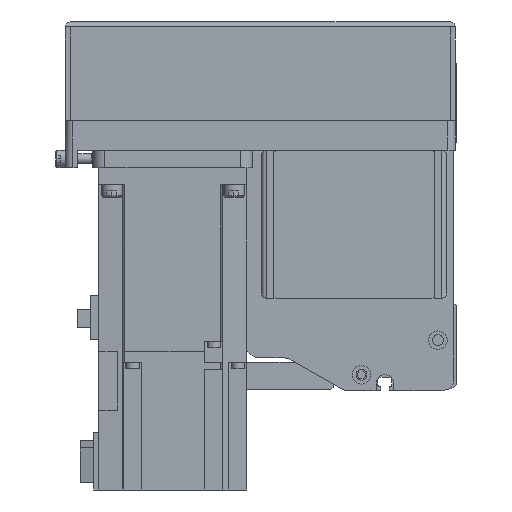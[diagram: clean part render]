
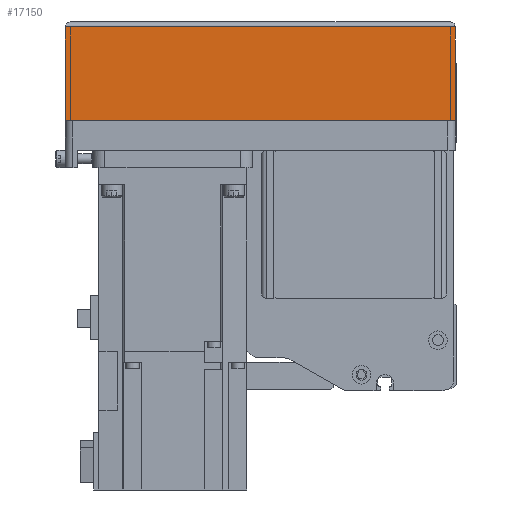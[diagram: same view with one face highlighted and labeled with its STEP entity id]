
A CAD part, left-side view. The second image highlights one B-rep face of the part: STEP entity #17150.
In plain terms, the highlighted planar face has unit normal (-1, 0, 0) as drawn and (0, 1, 0) by its records, which use the part's own axes.
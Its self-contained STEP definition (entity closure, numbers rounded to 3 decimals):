
#2682=ORIENTED_EDGE('',*,*,#6887,.F.);
#2683=ORIENTED_EDGE('',*,*,#6956,.F.);
#2684=ORIENTED_EDGE('',*,*,#6904,.T.);
#2685=ORIENTED_EDGE('',*,*,#6879,.T.);
#6879=EDGE_CURVE('',#9168,#9167,#10917,.T.);
#6887=EDGE_CURVE('',#9175,#9167,#10925,.T.);
#6904=EDGE_CURVE('',#9185,#9168,#10938,.T.);
#6956=EDGE_CURVE('',#9185,#9175,#10967,.T.);
#9167=VERTEX_POINT('',#26338);
#9168=VERTEX_POINT('',#26340);
#9175=VERTEX_POINT('',#26357);
#9185=VERTEX_POINT('',#26388);
#10917=LINE('',#26339,#12527);
#10925=LINE('',#26356,#12535);
#10938=LINE('',#26387,#12548);
#10967=LINE('',#26482,#12577);
#12527=VECTOR('',#21081,1000.);
#12535=VECTOR('',#21093,1000.);
#12548=VECTOR('',#21122,1000.);
#12577=VECTOR('',#21239,1000.);
#14014=EDGE_LOOP('',(#2682,#2683,#2684,#2685));
#15304=FACE_BOUND('',#14014,.T.);
#16423=PLANE('',#18399);
#17150=ADVANCED_FACE('',(#15304),#16423,.T.);
#18399=AXIS2_PLACEMENT_3D('',#26481,#21237,#21238);
#21081=DIRECTION('',(1.,0.,0.));
#21093=DIRECTION('',(0.,0.,1.));
#21122=DIRECTION('',(0.,0.,1.));
#21237=DIRECTION('',(0.,1.,0.));
#21238=DIRECTION('',(0.,0.,1.));
#21239=DIRECTION('',(1.,0.,0.));
#26338=CARTESIAN_POINT('',(0.,39.,-12.1));
#26339=CARTESIAN_POINT('',(-158.,39.,-12.1));
#26340=CARTESIAN_POINT('',(-158.,39.,-12.1));
#26356=CARTESIAN_POINT('',(0.,39.,-50.));
#26357=CARTESIAN_POINT('',(0.,39.,-50.));
#26387=CARTESIAN_POINT('',(-158.,39.,-50.));
#26388=CARTESIAN_POINT('',(-158.,39.,-50.));
#26481=CARTESIAN_POINT('',(-158.,39.,-50.));
#26482=CARTESIAN_POINT('',(-158.,39.,-50.));
